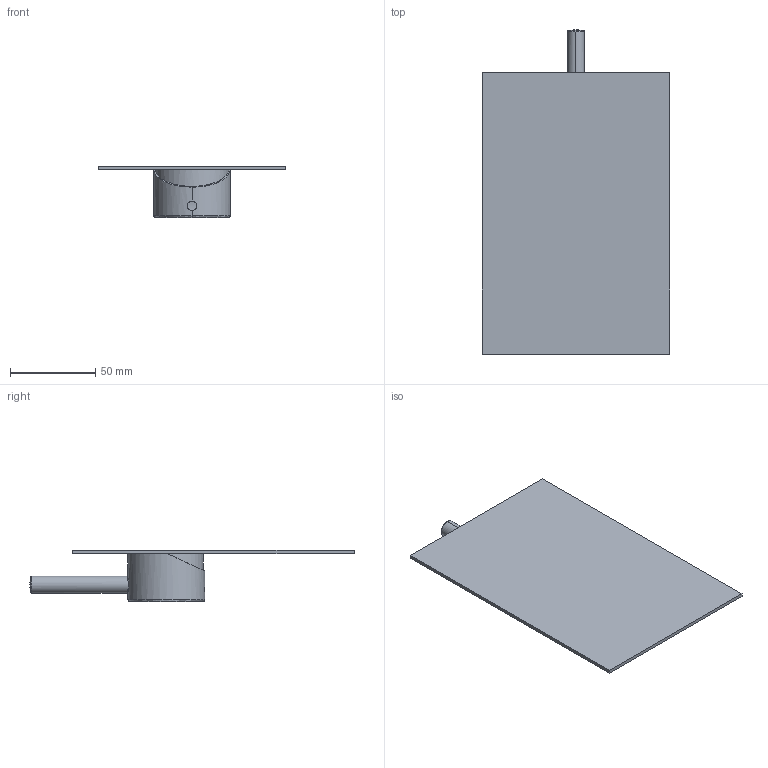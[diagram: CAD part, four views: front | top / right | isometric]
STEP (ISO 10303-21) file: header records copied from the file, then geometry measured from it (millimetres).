
FILE_DESCRIPTION (( 'STEP AP214' ), '1' );
FILE_NAME ('12201110 x architetti.STEP', '2024-09-16T08:12:08', ( '' ), ( '' ), 'SwSTEP 2.0', 'SolidWorks 2020', '' );
FILE_SCHEMA (( 'AUTOMOTIVE_DESIGN' ));
Length unit declared in the file: millimetre
Products named in the file (1): 12201110 x architetti
Bounding box: 110 x 189.99 x 30.14 mm (x, y, z)
Volume: 84846.6 mm3; surface area: 43183.8 mm2
Topology: 1 solids, 1 shells, 26 faces, 62 edges, 37 vertices
Faces by surface type: bspline 11, cylinder 8, plane 7
Entity records: 1698 total; most frequent: CARTESIAN_POINT 882, ORIENTED_EDGE 120, DIRECTION 92, EDGE_CURVE 60, VERTEX_POINT 37, AXIS2_PLACEMENT_3D 35, UNCERTAINTY_MEASURE_WITH_UNIT 27, EDGE_LOOP 27
